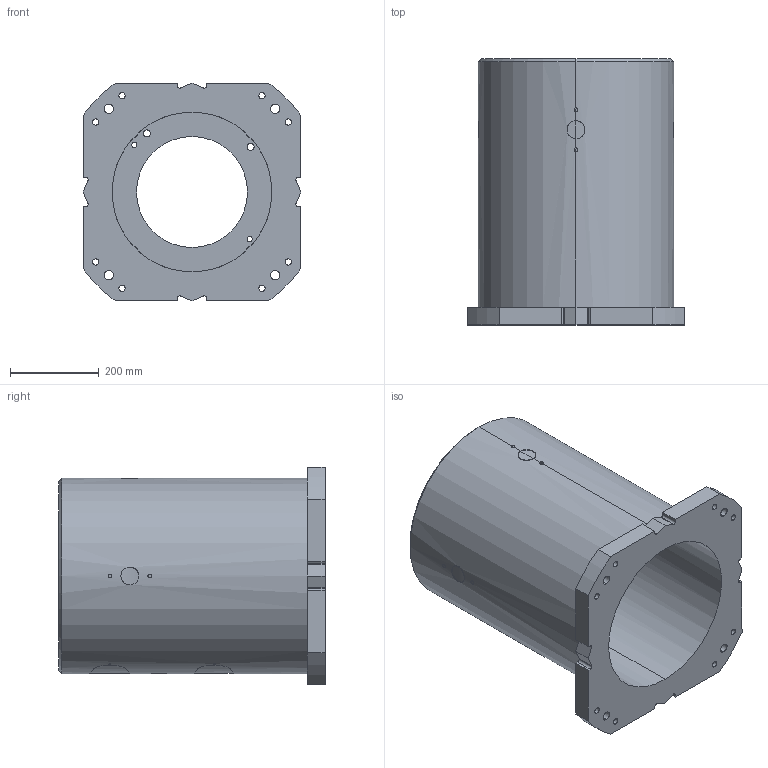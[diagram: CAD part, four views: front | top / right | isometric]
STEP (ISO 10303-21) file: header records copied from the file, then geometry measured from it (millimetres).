
FILE_DESCRIPTION (( 'STEP AP214' ), '1' );
FILE_NAME ('H-600.STEP', '2025-12-08T06:19:31', ( '' ), ( '' ), 'SwSTEP 2.0', 'SolidWorks 2022', '' );
FILE_SCHEMA (( 'AUTOMOTIVE_DESIGN' ));
Length unit declared in the file: millimetre
Products named in the file (1): H-600
Bounding box: 490 x 600 x 490 mm (x, y, z)
Volume: 34984555.8 mm3; surface area: 1902132 mm2
Topology: 1 solids, 1 shells, 175 faces, 485 edges, 320 vertices
Faces by surface type: cylinder 117, plane 32, bspline 24, cone 2
Entity records: 11418 total; most frequent: CARTESIAN_POINT 6447, ORIENTED_EDGE 970, DIRECTION 785, EDGE_CURVE 485, VERTEX_POINT 320, AXIS2_PLACEMENT_3D 302, EDGE_LOOP 225, LINE 181
